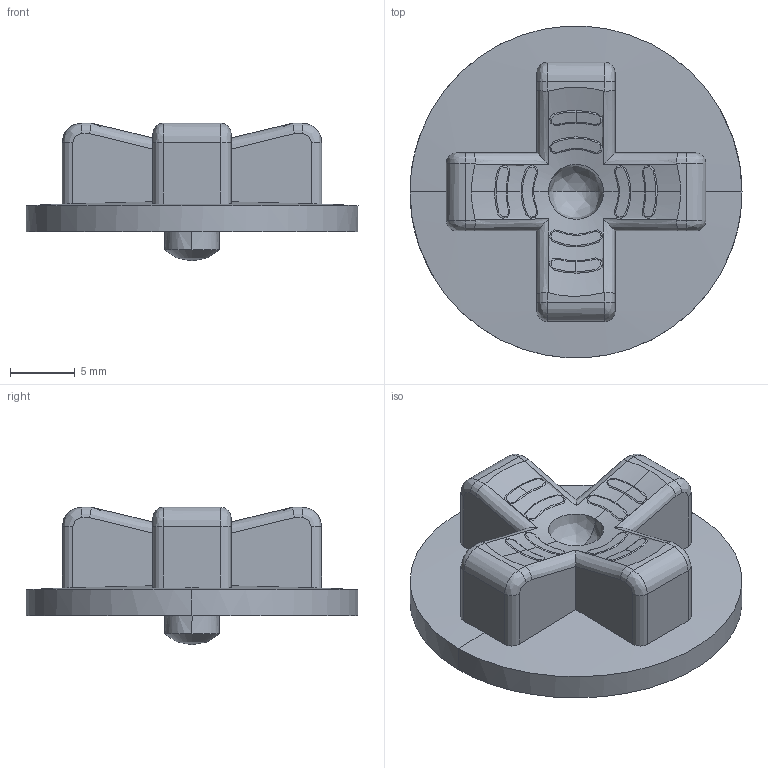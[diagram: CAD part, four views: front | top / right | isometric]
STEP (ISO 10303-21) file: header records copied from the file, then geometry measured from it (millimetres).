
FILE_DESCRIPTION(/* description */ (''),/* implementation_level */ '2;1');
FILE_NAME(/* name */ 'dpad button',/* time_stamp */ '2026-04-10T20:14:35+09:00',/* author */ (''),/* organization */ (''),/* preprocessor_version */ 'ST-DEVELOPER v16.5',/* originating_system */ '',/* authorisation */ '');
FILE_SCHEMA (('CONFIG_CONTROL_DESIGN'));
Length unit declared in the file: millimetre
Products named in the file (1): Document
Bounding box: 25.6 x 25.55 x 10.62 mm (x, y, z)
Volume: 1966 mm3; surface area: 1989.4 mm2
Topology: 1 solids, 1 shells, 134 faces, 341 edges, 212 vertices
Faces by surface type: bspline 79, plane 33, cylinder 22
Entity records: 8049 total; most frequent: CARTESIAN_POINT 5904, ORIENTED_EDGE 678, EDGE_CURVE 339, B_SPLINE_CURVE_WITH_KNOTS 223, VERTEX_POINT 212, EDGE_LOOP 139, ADVANCED_FACE 134, FACE_OUTER_BOUND 134
